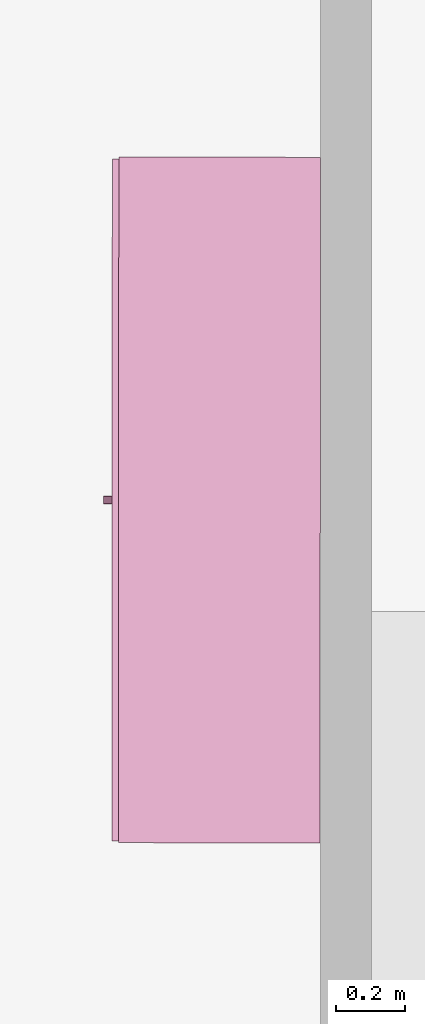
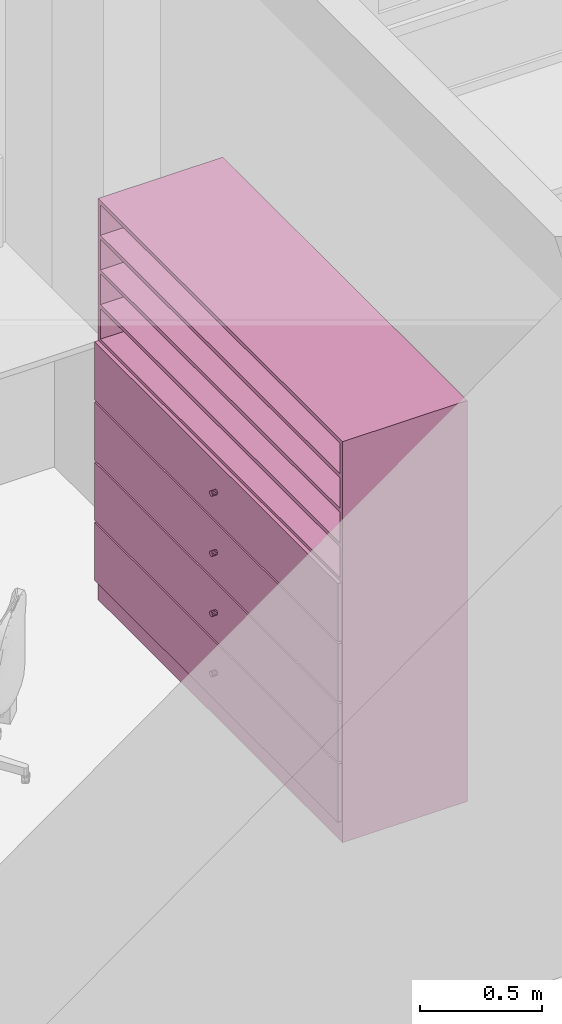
# One storey, part 178 of 194: 1 furnishing.
"""IFC2X3 building model written with IfcOpenShell, lengths in millimetres."""

from ifc_helpers import new_model, entity, si_unit, converted_unit, derived_unit, money_unit, direction, frame, origin_with_axes, place, context, subcontext, project, spatial, faceted_brep, type_object, element, save


model = new_model("IFC2X3")

# Units and contexts
model_context = context("Model", 3, precision=1e-05, world=origin_with_axes(), true_north=direction((0.0, 1.0)))
body_context = subcontext(model_context, "Body", "Model", "MODEL_VIEW")
ifc_project = project(units=[si_unit("LENGTHUNIT", "METRE", prefix="MILLI"), si_unit("AREAUNIT", "SQUARE_METRE"), si_unit("VOLUMEUNIT", "CUBIC_METRE"), converted_unit("PLANEANGLEUNIT", "DEGREE", entity("IfcPlaneAngleMeasure", 0.0174532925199), si_unit("PLANEANGLEUNIT", "RADIAN"), dimensions=[0, 0, 0, 0, 0, 0, 0]), si_unit("SOLIDANGLEUNIT", "STERADIAN"), money_unit("EUR"), converted_unit("TIMEUNIT", "Year", entity("IfcTimeMeasure", 31556926.0), si_unit("TIMEUNIT", "SECOND"), dimensions=[0, 0, 1, 0, 0, 0, 0]), si_unit("MASSUNIT", "GRAM", prefix="KILO"), si_unit("THERMODYNAMICTEMPERATUREUNIT", "DEGREE_CELSIUS"), si_unit("LUMINOUSINTENSITYUNIT", "LUMEN"), si_unit("ENERGYUNIT", "JOULE", prefix="MEGA"), derived_unit("THERMALCONDUCTANCEUNIT", [(si_unit("POWERUNIT", "WATT"), 1), (si_unit("LENGTHUNIT", "METRE"), -1), (si_unit("THERMODYNAMICTEMPERATUREUNIT", "KELVIN"), -1)]), derived_unit("SPECIFICHEATCAPACITYUNIT", [(si_unit("ENERGYUNIT", "JOULE"), 1), (si_unit("MASSUNIT", "GRAM", prefix="KILO"), -1), (si_unit("THERMODYNAMICTEMPERATUREUNIT", "KELVIN"), -1)]), derived_unit("MASSDENSITYUNIT", [(si_unit("MASSUNIT", "GRAM", prefix="KILO"), 1), (si_unit("VOLUMEUNIT", "CUBIC_METRE"), -1)])], contexts=[model_context])

# Site, building, storey
site_placement = place(None, origin_with_axes())
site = spatial("IfcSite", under=ifc_project, at=site_placement, Name="Site", CompositionType="ELEMENT")
building_placement = place(site_placement, origin_with_axes())
building = spatial("IfcBuilding", under=site, at=building_placement, Name="Building", CompositionType="ELEMENT")
storey_placement = place(building_placement, frame((0.0, 0.0, 3000.0), z_axis=(0.0, 0.0, 1.0), x_axis=(1.0, 0.0, 0.0)))
storey = spatial("IfcBuildingStorey", under=building, at=storey_placement, Name="2 KORRUS", CompositionType="ELEMENT", Elevation=3000.0)

# Furnishing
furnishing_element_type = type_object("IfcFurnishingElementType", Name="Model Element 81")
furnishing_placement = place(storey_placement, frame((12405.0906133, 70579.6817968, 0.0), z_axis=(0.0, 0.0, 1.0), x_axis=(-0.00064265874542, -0.999999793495, 0.0)))
element("IfcFurnishingElement", 1, at=furnishing_placement, inside=storey, type_object=furnishing_element_type, Name="FU - 001", context=body_context, shape_type="Brep", body=[
    faceted_brep([(2000.0, 19.0, 0.0), (0.0, 19.0, 0.0), (0.0, 607.335709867, 0.0), (2000.0, 607.335709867, 0.0), (2000.0, 19.0, 100.0), (0.0, 19.0, 100.0), (0.0, 607.335709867, 100.0), (2000.0, 607.335709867, 100.0)], [[[0, 1, 2, 3]], [[1, 0, 4, 5]], [[2, 1, 5, 6]], [[3, 2, 6, 7]], [[0, 3, 7, 4]], [[5, 4, 7, 6]]]),
    faceted_brep([(19.0, 607.335709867, 119.0), (19.0, 588.335709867, 119.0), (19.0, 588.335709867, 1981.0), (19.0, 607.335709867, 1981.0), (1981.0, 607.335709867, 119.0), (1981.0, 588.335709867, 119.0), (1981.0, 588.335709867, 1981.0), (1981.0, 607.335709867, 1981.0)], [[[0, 1, 2, 3]], [[0, 4, 5, 1]], [[1, 5, 6, 2]], [[3, 2, 6, 7]], [[4, 0, 3, 7]], [[5, 4, 7, 6]]]),
    faceted_brep([(2000.0, 19.0, 100.0), (1981.0, 19.0, 100.0), (1981.0, 607.335709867, 100.0), (2000.0, 607.335709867, 100.0), (2000.0, 19.0, 2000.0), (1981.0, 19.0, 2000.0), (1981.0, 607.335709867, 2000.0), (2000.0, 607.335709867, 2000.0)], [[[0, 1, 2, 3]], [[1, 0, 4, 5]], [[2, 1, 5, 6]], [[3, 2, 6, 7]], [[0, 3, 7, 4]], [[5, 4, 7, 6]]]),
    faceted_brep([(19.0, 19.0, 100.0), (0.0, 19.0, 100.0), (0.0, 607.335709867, 100.0), (19.0, 607.335709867, 100.0), (19.0, 19.0, 2000.0), (0.0, 19.0, 2000.0), (0.0, 607.335709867, 2000.0), (19.0, 607.335709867, 2000.0)], [[[0, 1, 2, 3]], [[1, 0, 4, 5]], [[2, 1, 5, 6]], [[3, 2, 6, 7]], [[0, 3, 7, 4]], [[5, 4, 7, 6]]]),
    faceted_brep([(1981.0, 19.0, 100.0), (19.0, 19.0, 100.0), (19.0, 607.335709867, 100.0), (1981.0, 607.335709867, 100.0), (1981.0, 19.0, 119.0), (19.0, 19.0, 119.0), (19.0, 607.335709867, 119.0), (1981.0, 607.335709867, 119.0)], [[[0, 1, 2, 3]], [[1, 0, 4, 5]], [[2, 1, 5, 6]], [[3, 2, 6, 7]], [[0, 3, 7, 4]], [[5, 4, 7, 6]]]),
    faceted_brep([(1981.0, 19.0, 1981.0), (19.0, 19.0, 1981.0), (19.0, 607.335709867, 1981.0), (1981.0, 607.335709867, 1981.0), (1981.0, 19.0, 2000.0), (19.0, 19.0, 2000.0), (19.0, 607.335709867, 2000.0), (1981.0, 607.335709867, 2000.0)], [[[0, 1, 2, 3]], [[1, 0, 4, 5]], [[2, 1, 5, 6]], [[3, 2, 6, 7]], [[0, 3, 7, 4]], [[5, 4, 7, 6]]]),
    faceted_brep([(5.0, 19.0, 105.0), (1995.0, 19.0, 105.0), (1995.0, 0.0, 105.0), (5.0, 0.0, 105.0), (5.0, 19.0, 395.0), (1995.0, 19.0, 395.0), (1995.0, 0.0, 395.0), (5.0, 0.0, 395.0)], [[[0, 1, 2, 3]], [[0, 4, 5, 1]], [[1, 5, 6, 2]], [[3, 2, 6, 7]], [[4, 0, 3, 7]], [[5, 4, 7, 6]]]),
    faceted_brep([(1010.39230485, 0.0, 244.0), (1006.0, 0.0, 239.607695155), (1000.0, 0.0, 238.0), (994.0, 0.0, 239.607695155), (989.607695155, 0.0, 244.0), (988.0, 0.0, 250.0), (989.607695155, 0.0, 256.0), (994.0, 0.0, 260.392304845), (1000.0, 0.0, 262.0), (1006.0, 0.0, 260.392304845), (1010.39230485, 0.0, 256.0), (1012.0, 0.0, 250.0), (1010.39230485, -25.0, 244.0), (1006.0, -25.0, 239.607695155), (1000.0, -25.0, 238.0), (994.0, -25.0, 239.607695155), (989.607695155, -25.0, 244.0), (988.0, -25.0, 250.0), (989.607695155, -25.0, 256.0), (994.0, -25.0, 260.392304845), (1000.0, -25.0, 262.0), (1006.0, -25.0, 260.392304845), (1010.39230485, -25.0, 256.0), (1012.0, -25.0, 250.0)], [[[0, 1, 2, 3, 4, 5, 6, 7, 8, 9, 10, 11]], [[1, 0, 12, 13]], [[2, 1, 13, 14]], [[3, 2, 14, 15]], [[4, 3, 15, 16]], [[5, 4, 16, 17]], [[6, 5, 17, 18]], [[7, 6, 18, 19]], [[8, 7, 19, 20]], [[9, 8, 20, 21]], [[10, 9, 21, 22]], [[11, 10, 22, 23]], [[0, 11, 23, 12]], [[12, 23, 22, 21, 20, 19, 18, 17, 16, 15, 14, 13]]]),
    faceted_brep([(5.0, 19.0, 405.0), (1995.0, 19.0, 405.0), (1995.0, 0.0, 405.0), (5.0, 0.0, 405.0), (5.0, 19.0, 695.0), (1995.0, 19.0, 695.0), (1995.0, 0.0, 695.0), (5.0, 0.0, 695.0)], [[[0, 1, 2, 3]], [[0, 4, 5, 1]], [[1, 5, 6, 2]], [[3, 2, 6, 7]], [[4, 0, 3, 7]], [[5, 4, 7, 6]]]),
    faceted_brep([(1010.39230485, 0.0, 544.0), (1006.0, 0.0, 539.607695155), (1000.0, 0.0, 538.0), (994.0, 0.0, 539.607695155), (989.607695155, 0.0, 544.0), (988.0, 0.0, 550.0), (989.607695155, 0.0, 556.0), (994.0, 0.0, 560.392304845), (1000.0, 0.0, 562.0), (1006.0, 0.0, 560.392304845), (1010.39230485, 0.0, 556.0), (1012.0, 0.0, 550.0), (1010.39230485, -25.0, 544.0), (1006.0, -25.0, 539.607695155), (1000.0, -25.0, 538.0), (994.0, -25.0, 539.607695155), (989.607695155, -25.0, 544.0), (988.0, -25.0, 550.0), (989.607695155, -25.0, 556.0), (994.0, -25.0, 560.392304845), (1000.0, -25.0, 562.0), (1006.0, -25.0, 560.392304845), (1010.39230485, -25.0, 556.0), (1012.0, -25.0, 550.0)], [[[0, 1, 2, 3, 4, 5, 6, 7, 8, 9, 10, 11]], [[1, 0, 12, 13]], [[2, 1, 13, 14]], [[3, 2, 14, 15]], [[4, 3, 15, 16]], [[5, 4, 16, 17]], [[6, 5, 17, 18]], [[7, 6, 18, 19]], [[8, 7, 19, 20]], [[9, 8, 20, 21]], [[10, 9, 21, 22]], [[11, 10, 22, 23]], [[0, 11, 23, 12]], [[12, 23, 22, 21, 20, 19, 18, 17, 16, 15, 14, 13]]]),
    faceted_brep([(5.0, 19.0, 705.0), (1995.0, 19.0, 705.0), (1995.0, 0.0, 705.0), (5.0, 0.0, 705.0), (5.0, 19.0, 995.0), (1995.0, 19.0, 995.0), (1995.0, 0.0, 995.0), (5.0, 0.0, 995.0)], [[[0, 1, 2, 3]], [[0, 4, 5, 1]], [[1, 5, 6, 2]], [[3, 2, 6, 7]], [[4, 0, 3, 7]], [[5, 4, 7, 6]]]),
    faceted_brep([(1010.39230485, 0.0, 844.0), (1006.0, 0.0, 839.607695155), (1000.0, 0.0, 838.0), (994.0, 0.0, 839.607695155), (989.607695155, 0.0, 844.0), (988.0, 0.0, 850.0), (989.607695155, 0.0, 856.0), (994.0, 0.0, 860.392304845), (1000.0, 0.0, 862.0), (1006.0, 0.0, 860.392304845), (1010.39230485, 0.0, 856.0), (1012.0, 0.0, 850.0), (1010.39230485, -25.0, 844.0), (1006.0, -25.0, 839.607695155), (1000.0, -25.0, 838.0), (994.0, -25.0, 839.607695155), (989.607695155, -25.0, 844.0), (988.0, -25.0, 850.0), (989.607695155, -25.0, 856.0), (994.0, -25.0, 860.392304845), (1000.0, -25.0, 862.0), (1006.0, -25.0, 860.392304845), (1010.39230485, -25.0, 856.0), (1012.0, -25.0, 850.0)], [[[0, 1, 2, 3, 4, 5, 6, 7, 8, 9, 10, 11]], [[1, 0, 12, 13]], [[2, 1, 13, 14]], [[3, 2, 14, 15]], [[4, 3, 15, 16]], [[5, 4, 16, 17]], [[6, 5, 17, 18]], [[7, 6, 18, 19]], [[8, 7, 19, 20]], [[9, 8, 20, 21]], [[10, 9, 21, 22]], [[11, 10, 22, 23]], [[0, 11, 23, 12]], [[12, 23, 22, 21, 20, 19, 18, 17, 16, 15, 14, 13]]]),
    faceted_brep([(5.0, 19.0, 1005.0), (1995.0, 19.0, 1005.0), (1995.0, 0.0, 1005.0), (5.0, 0.0, 1005.0), (5.0, 19.0, 1295.0), (1995.0, 19.0, 1295.0), (1995.0, 0.0, 1295.0), (5.0, 0.0, 1295.0)], [[[0, 1, 2, 3]], [[0, 4, 5, 1]], [[1, 5, 6, 2]], [[3, 2, 6, 7]], [[4, 0, 3, 7]], [[5, 4, 7, 6]]]),
    faceted_brep([(1010.39230485, 0.0, 1144.0), (1006.0, 0.0, 1139.60769515), (1000.0, 0.0, 1138.0), (994.0, 0.0, 1139.60769515), (989.607695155, 0.0, 1144.0), (988.0, 0.0, 1150.0), (989.607695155, 0.0, 1156.0), (994.0, 0.0, 1160.39230485), (1000.0, 0.0, 1162.0), (1006.0, 0.0, 1160.39230485), (1010.39230485, 0.0, 1156.0), (1012.0, 0.0, 1150.0), (1010.39230485, -25.0, 1144.0), (1006.0, -25.0, 1139.60769515), (1000.0, -25.0, 1138.0), (994.0, -25.0, 1139.60769515), (989.607695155, -25.0, 1144.0), (988.0, -25.0, 1150.0), (989.607695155, -25.0, 1156.0), (994.0, -25.0, 1160.39230485), (1000.0, -25.0, 1162.0), (1006.0, -25.0, 1160.39230485), (1010.39230485, -25.0, 1156.0), (1012.0, -25.0, 1150.0)], [[[0, 1, 2, 3, 4, 5, 6, 7, 8, 9, 10, 11]], [[1, 0, 12, 13]], [[2, 1, 13, 14]], [[3, 2, 14, 15]], [[4, 3, 15, 16]], [[5, 4, 16, 17]], [[6, 5, 17, 18]], [[7, 6, 18, 19]], [[8, 7, 19, 20]], [[9, 8, 20, 21]], [[10, 9, 21, 22]], [[11, 10, 22, 23]], [[0, 11, 23, 12]], [[12, 23, 22, 21, 20, 19, 18, 17, 16, 15, 14, 13]]]),
    faceted_brep([(19.0, 19.0, 390.5), (1981.0, 19.0, 390.5), (1981.0, 19.0, 409.5), (19.0, 19.0, 409.5), (19.0, 588.335709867, 390.5), (1981.0, 588.335709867, 390.5), (1981.0, 588.335709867, 409.5), (19.0, 588.335709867, 409.5)], [[[0, 1, 2, 3]], [[0, 4, 5, 1]], [[1, 5, 6, 2]], [[3, 2, 6, 7]], [[4, 0, 3, 7]], [[5, 4, 7, 6]]]),
    faceted_brep([(19.0, 19.0, 690.5), (1981.0, 19.0, 690.5), (1981.0, 19.0, 709.5), (19.0, 19.0, 709.5), (19.0, 588.335709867, 690.5), (1981.0, 588.335709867, 690.5), (1981.0, 588.335709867, 709.5), (19.0, 588.335709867, 709.5)], [[[0, 1, 2, 3]], [[0, 4, 5, 1]], [[1, 5, 6, 2]], [[3, 2, 6, 7]], [[4, 0, 3, 7]], [[5, 4, 7, 6]]]),
    faceted_brep([(19.0, 19.0, 990.5), (1981.0, 19.0, 990.5), (1981.0, 19.0, 1009.5), (19.0, 19.0, 1009.5), (19.0, 588.335709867, 990.5), (1981.0, 588.335709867, 990.5), (1981.0, 588.335709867, 1009.5), (19.0, 588.335709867, 1009.5)], [[[0, 1, 2, 3]], [[0, 4, 5, 1]], [[1, 5, 6, 2]], [[3, 2, 6, 7]], [[4, 0, 3, 7]], [[5, 4, 7, 6]]]),
    faceted_brep([(19.0, 19.0, 1290.5), (1981.0, 19.0, 1290.5), (1981.0, 19.0, 1309.5), (19.0, 19.0, 1309.5), (19.0, 588.335709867, 1290.5), (1981.0, 588.335709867, 1290.5), (1981.0, 588.335709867, 1309.5), (19.0, 588.335709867, 1309.5)], [[[0, 1, 2, 3]], [[0, 4, 5, 1]], [[1, 5, 6, 2]], [[3, 2, 6, 7]], [[4, 0, 3, 7]], [[5, 4, 7, 6]]]),
    faceted_brep([(1981.0, 19.0, 1463.125), (19.0, 19.0, 1463.125), (19.0, 588.335709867, 1463.125), (1981.0, 588.335709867, 1463.125), (1981.0, 19.0, 1482.125), (19.0, 19.0, 1482.125), (19.0, 588.335709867, 1482.125), (1981.0, 588.335709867, 1482.125)], [[[0, 1, 2, 3]], [[1, 0, 4, 5]], [[2, 1, 5, 6]], [[3, 2, 6, 7]], [[0, 3, 7, 4]], [[5, 4, 7, 6]]]),
    faceted_brep([(1981.0, 19.0, 1635.75), (19.0, 19.0, 1635.75), (19.0, 588.335709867, 1635.75), (1981.0, 588.335709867, 1635.75), (1981.0, 19.0, 1654.75), (19.0, 19.0, 1654.75), (19.0, 588.335709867, 1654.75), (1981.0, 588.335709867, 1654.75)], [[[0, 1, 2, 3]], [[1, 0, 4, 5]], [[2, 1, 5, 6]], [[3, 2, 6, 7]], [[0, 3, 7, 4]], [[5, 4, 7, 6]]]),
    faceted_brep([(1981.0, 19.0, 1808.375), (19.0, 19.0, 1808.375), (19.0, 588.335709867, 1808.375), (1981.0, 588.335709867, 1808.375), (1981.0, 19.0, 1827.375), (19.0, 19.0, 1827.375), (19.0, 588.335709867, 1827.375), (1981.0, 588.335709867, 1827.375)], [[[0, 1, 2, 3]], [[1, 0, 4, 5]], [[2, 1, 5, 6]], [[3, 2, 6, 7]], [[0, 3, 7, 4]], [[5, 4, 7, 6]]]),
])

save(model, "model.ifc")
